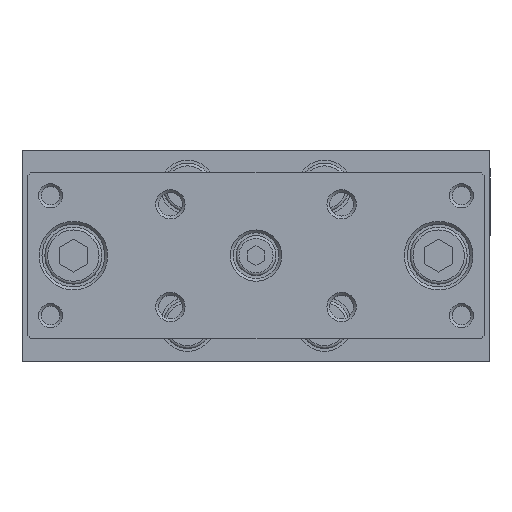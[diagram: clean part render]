
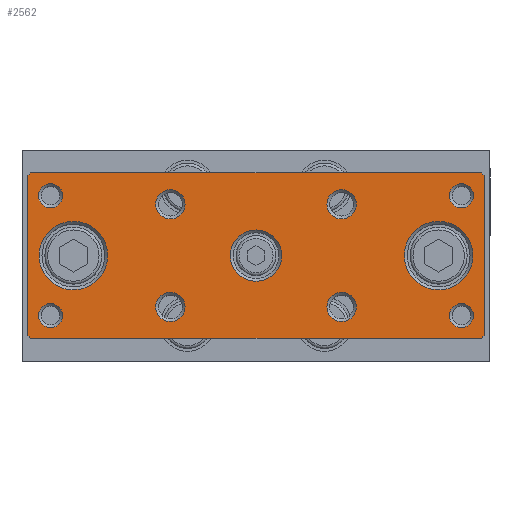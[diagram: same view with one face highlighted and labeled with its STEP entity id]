
A CAD part, top view. The second image highlights one B-rep face of the part: STEP entity #2562.
In plain terms, the highlighted planar face has unit normal (0, 0, 1).
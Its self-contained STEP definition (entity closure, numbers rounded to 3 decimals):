
#2366=CARTESIAN_POINT('',(-12.193,-7.317,104.5));
#2367=VERTEX_POINT('',#2366);
#2368=CARTESIAN_POINT('',(-14.76,-7.317,104.5));
#2369=DIRECTION('',(0.0,0.0,1.0));
#2370=DIRECTION('',(-1.0,0.0,0.0));
#2371=AXIS2_PLACEMENT_3D('',#2368,#2369,#2370);
#2372=CIRCLE('',#2371,2.567);
#2373=EDGE_CURVE('',#2367,#2367,#2372,.T.);
#2378=CARTESIAN_POINT('',(-39.76,1.683,104.5));
#2379=DIRECTION('',(0.0,0.0,1.0));
#2380=DIRECTION('',(1.0,0.0,0.0));
#2381=AXIS2_PLACEMENT_3D('',#2378,#2379,#2380);
#2382=PLANE('',#2381);
#2383=CARTESIAN_POINT('',(-39.76,15.683,104.5));
#2384=VERTEX_POINT('',#2383);
#2385=CARTESIAN_POINT('',(-39.26,16.183,104.5));
#2386=VERTEX_POINT('',#2385);
#2387=CARTESIAN_POINT('',(-39.76,15.683,104.5));
#2388=DIRECTION('',(0.707,0.707,0.0));
#2389=VECTOR('',#2388,0.707);
#2390=LINE('',#2387,#2389);
#2391=EDGE_CURVE('',#2384,#2386,#2390,.T.);
#2392=ORIENTED_EDGE('',*,*,#2391,.F.);
#2393=CARTESIAN_POINT('',(-39.76,-12.317,104.5));
#2394=VERTEX_POINT('',#2393);
#2395=CARTESIAN_POINT('',(-39.76,15.683,104.5));
#2396=DIRECTION('',(0.0,-1.0,0.0));
#2397=VECTOR('',#2396,28.);
#2398=LINE('',#2395,#2397);
#2399=EDGE_CURVE('',#2384,#2394,#2398,.T.);
#2400=ORIENTED_EDGE('',*,*,#2399,.T.);
#2401=CARTESIAN_POINT('',(-39.26,-12.817,104.5));
#2402=VERTEX_POINT('',#2401);
#2403=CARTESIAN_POINT('',(-39.26,-12.817,104.5));
#2404=DIRECTION('',(-0.707,0.707,0.0));
#2405=VECTOR('',#2404,0.707);
#2406=LINE('',#2403,#2405);
#2407=EDGE_CURVE('',#2402,#2394,#2406,.T.);
#2408=ORIENTED_EDGE('',*,*,#2407,.F.);
#2409=CARTESIAN_POINT('',(39.74,-12.817,104.5));
#2410=VERTEX_POINT('',#2409);
#2411=CARTESIAN_POINT('',(-39.26,-12.817,104.5));
#2412=DIRECTION('',(1.0,0.0,0.0));
#2413=VECTOR('',#2412,79.);
#2414=LINE('',#2411,#2413);
#2415=EDGE_CURVE('',#2402,#2410,#2414,.T.);
#2416=ORIENTED_EDGE('',*,*,#2415,.T.);
#2417=CARTESIAN_POINT('',(40.24,-12.317,104.5));
#2418=VERTEX_POINT('',#2417);
#2419=CARTESIAN_POINT('',(40.24,-12.317,104.5));
#2420=DIRECTION('',(-0.707,-0.707,0.0));
#2421=VECTOR('',#2420,0.707);
#2422=LINE('',#2419,#2421);
#2423=EDGE_CURVE('',#2418,#2410,#2422,.T.);
#2424=ORIENTED_EDGE('',*,*,#2423,.F.);
#2425=CARTESIAN_POINT('',(40.24,15.683,104.5));
#2426=VERTEX_POINT('',#2425);
#2427=CARTESIAN_POINT('',(40.24,-12.317,104.5));
#2428=DIRECTION('',(0.0,1.0,0.0));
#2429=VECTOR('',#2428,28.);
#2430=LINE('',#2427,#2429);
#2431=EDGE_CURVE('',#2418,#2426,#2430,.T.);
#2432=ORIENTED_EDGE('',*,*,#2431,.T.);
#2433=CARTESIAN_POINT('',(39.74,16.183,104.5));
#2434=VERTEX_POINT('',#2433);
#2435=CARTESIAN_POINT('',(39.74,16.183,104.5));
#2436=DIRECTION('',(0.707,-0.707,0.0));
#2437=VECTOR('',#2436,0.707);
#2438=LINE('',#2435,#2437);
#2439=EDGE_CURVE('',#2434,#2426,#2438,.T.);
#2440=ORIENTED_EDGE('',*,*,#2439,.F.);
#2441=CARTESIAN_POINT('',(39.74,16.183,104.5));
#2442=DIRECTION('',(-1.0,0.0,0.0));
#2443=VECTOR('',#2442,79.0);
#2444=LINE('',#2441,#2443);
#2445=EDGE_CURVE('',#2434,#2386,#2444,.T.);
#2446=ORIENTED_EDGE('',*,*,#2445,.T.);
#2447=EDGE_LOOP('',(#2392,#2400,#2408,#2416,#2424,#2432,#2440,#2446));
#2448=FACE_OUTER_BOUND('',#2447,.T.);
#2449=CARTESIAN_POINT('',(17.807,10.683,104.5));
#2450=VERTEX_POINT('',#2449);
#2451=CARTESIAN_POINT('',(15.24,10.683,104.5));
#2452=DIRECTION('',(0.0,0.0,1.0));
#2453=DIRECTION('',(-1.0,0.0,0.0));
#2454=AXIS2_PLACEMENT_3D('',#2451,#2452,#2453);
#2455=CIRCLE('',#2454,2.567);
#2456=EDGE_CURVE('',#2450,#2450,#2455,.T.);
#2457=ORIENTED_EDGE('',*,*,#2456,.F.);
#2458=EDGE_LOOP('',(#2457));
#2459=FACE_BOUND('',#2458,.T.);
#2460=CARTESIAN_POINT('',(-12.193,10.683,104.5));
#2461=VERTEX_POINT('',#2460);
#2462=CARTESIAN_POINT('',(-14.76,10.683,104.5));
#2463=DIRECTION('',(0.0,0.0,1.0));
#2464=DIRECTION('',(-1.0,0.0,0.0));
#2465=AXIS2_PLACEMENT_3D('',#2462,#2463,#2464);
#2466=CIRCLE('',#2465,2.567);
#2467=EDGE_CURVE('',#2461,#2461,#2466,.T.);
#2468=ORIENTED_EDGE('',*,*,#2467,.F.);
#2469=EDGE_LOOP('',(#2468));
#2470=FACE_BOUND('',#2469,.T.);
#2471=CARTESIAN_POINT('',(4.74,1.683,104.5));
#2472=VERTEX_POINT('',#2471);
#2473=CARTESIAN_POINT('',(0.24,1.683,104.5));
#2474=DIRECTION('',(0.0,0.0,1.0));
#2475=DIRECTION('',(-1.0,0.0,0.0));
#2476=AXIS2_PLACEMENT_3D('',#2473,#2474,#2475);
#2477=CIRCLE('',#2476,4.5);
#2478=EDGE_CURVE('',#2472,#2472,#2477,.T.);
#2479=ORIENTED_EDGE('',*,*,#2478,.F.);
#2480=EDGE_LOOP('',(#2479));
#2481=FACE_BOUND('',#2480,.T.);
#2482=CARTESIAN_POINT('',(-25.76,1.683,104.5));
#2483=VERTEX_POINT('',#2482);
#2484=CARTESIAN_POINT('',(-31.76,1.683,104.5));
#2485=DIRECTION('',(0.0,0.0,1.0));
#2486=DIRECTION('',(-1.0,0.0,0.0));
#2487=AXIS2_PLACEMENT_3D('',#2484,#2485,#2486);
#2488=CIRCLE('',#2487,6.);
#2489=EDGE_CURVE('',#2483,#2483,#2488,.T.);
#2490=ORIENTED_EDGE('',*,*,#2489,.F.);
#2491=EDGE_LOOP('',(#2490));
#2492=FACE_BOUND('',#2491,.T.);
#2493=CARTESIAN_POINT('',(38.24,1.683,104.5));
#2494=VERTEX_POINT('',#2493);
#2495=CARTESIAN_POINT('',(32.24,1.683,104.5));
#2496=DIRECTION('',(0.0,0.0,1.0));
#2497=DIRECTION('',(-1.0,0.0,0.0));
#2498=AXIS2_PLACEMENT_3D('',#2495,#2496,#2497);
#2499=CIRCLE('',#2498,6.);
#2500=EDGE_CURVE('',#2494,#2494,#2499,.T.);
#2501=ORIENTED_EDGE('',*,*,#2500,.F.);
#2502=EDGE_LOOP('',(#2501));
#2503=FACE_BOUND('',#2502,.T.);
#2504=CARTESIAN_POINT('',(38.361,-8.817,104.5));
#2505=VERTEX_POINT('',#2504);
#2506=CARTESIAN_POINT('',(36.24,-8.817,104.5));
#2507=DIRECTION('',(0.0,0.0,1.0));
#2508=DIRECTION('',(-1.0,0.0,0.0));
#2509=AXIS2_PLACEMENT_3D('',#2506,#2507,#2508);
#2510=CIRCLE('',#2509,2.121);
#2511=EDGE_CURVE('',#2505,#2505,#2510,.T.);
#2512=ORIENTED_EDGE('',*,*,#2511,.F.);
#2513=EDGE_LOOP('',(#2512));
#2514=FACE_BOUND('',#2513,.T.);
#2515=CARTESIAN_POINT('',(38.361,12.183,104.5));
#2516=VERTEX_POINT('',#2515);
#2517=CARTESIAN_POINT('',(36.24,12.183,104.5));
#2518=DIRECTION('',(0.0,0.0,1.0));
#2519=DIRECTION('',(-1.0,0.0,0.0));
#2520=AXIS2_PLACEMENT_3D('',#2517,#2518,#2519);
#2521=CIRCLE('',#2520,2.121);
#2522=EDGE_CURVE('',#2516,#2516,#2521,.T.);
#2523=ORIENTED_EDGE('',*,*,#2522,.F.);
#2524=EDGE_LOOP('',(#2523));
#2525=FACE_BOUND('',#2524,.T.);
#2526=CARTESIAN_POINT('',(-33.639,-8.817,104.5));
#2527=VERTEX_POINT('',#2526);
#2528=CARTESIAN_POINT('',(-35.76,-8.817,104.5));
#2529=DIRECTION('',(0.0,0.0,1.0));
#2530=DIRECTION('',(-1.0,0.0,0.0));
#2531=AXIS2_PLACEMENT_3D('',#2528,#2529,#2530);
#2532=CIRCLE('',#2531,2.121);
#2533=EDGE_CURVE('',#2527,#2527,#2532,.T.);
#2534=ORIENTED_EDGE('',*,*,#2533,.F.);
#2535=EDGE_LOOP('',(#2534));
#2536=FACE_BOUND('',#2535,.T.);
#2537=CARTESIAN_POINT('',(-33.639,12.183,104.5));
#2538=VERTEX_POINT('',#2537);
#2539=CARTESIAN_POINT('',(-35.76,12.183,104.5));
#2540=DIRECTION('',(0.0,0.0,1.0));
#2541=DIRECTION('',(-1.0,0.0,0.0));
#2542=AXIS2_PLACEMENT_3D('',#2539,#2540,#2541);
#2543=CIRCLE('',#2542,2.121);
#2544=EDGE_CURVE('',#2538,#2538,#2543,.T.);
#2545=ORIENTED_EDGE('',*,*,#2544,.F.);
#2546=EDGE_LOOP('',(#2545));
#2547=FACE_BOUND('',#2546,.T.);
#2548=CARTESIAN_POINT('',(17.807,-7.317,104.5));
#2549=VERTEX_POINT('',#2548);
#2550=CARTESIAN_POINT('',(15.24,-7.317,104.5));
#2551=DIRECTION('',(0.0,0.0,1.0));
#2552=DIRECTION('',(-1.0,0.0,0.0));
#2553=AXIS2_PLACEMENT_3D('',#2550,#2551,#2552);
#2554=CIRCLE('',#2553,2.567);
#2555=EDGE_CURVE('',#2549,#2549,#2554,.T.);
#2556=ORIENTED_EDGE('',*,*,#2555,.F.);
#2557=EDGE_LOOP('',(#2556));
#2558=FACE_BOUND('',#2557,.T.);
#2559=ORIENTED_EDGE('',*,*,#2373,.F.);
#2560=EDGE_LOOP('',(#2559));
#2561=FACE_BOUND('',#2560,.T.);
#2562=ADVANCED_FACE('',(#2448,#2459,#2470,#2481,#2492,#2503,#2514,#2525,#2536,#2547,#2558,#2561),#2382,.T.);
